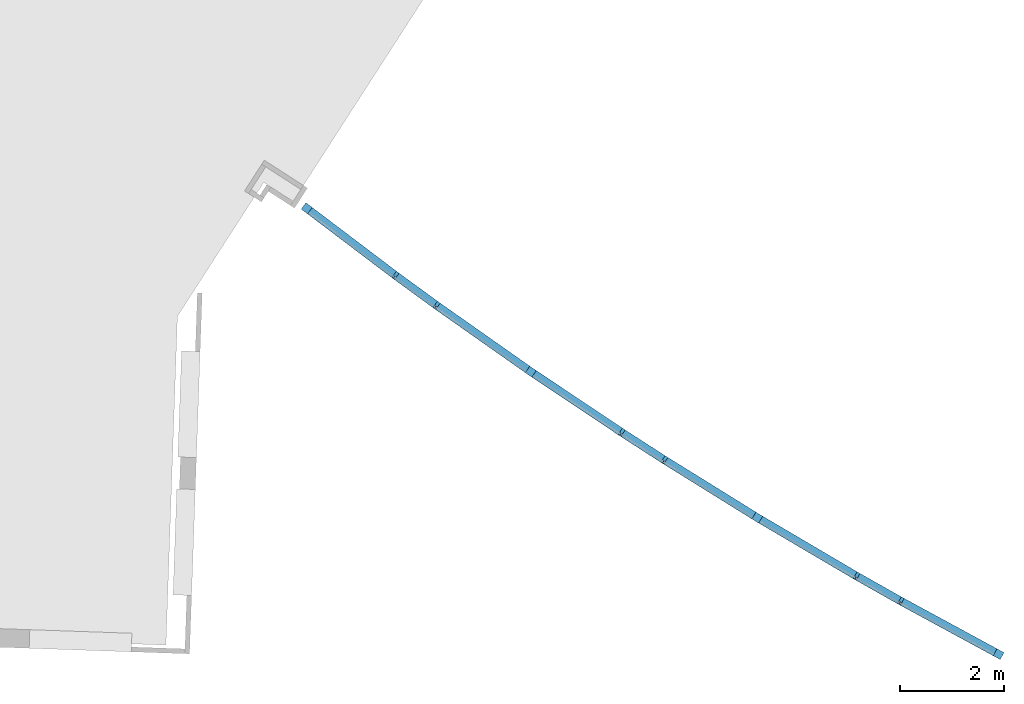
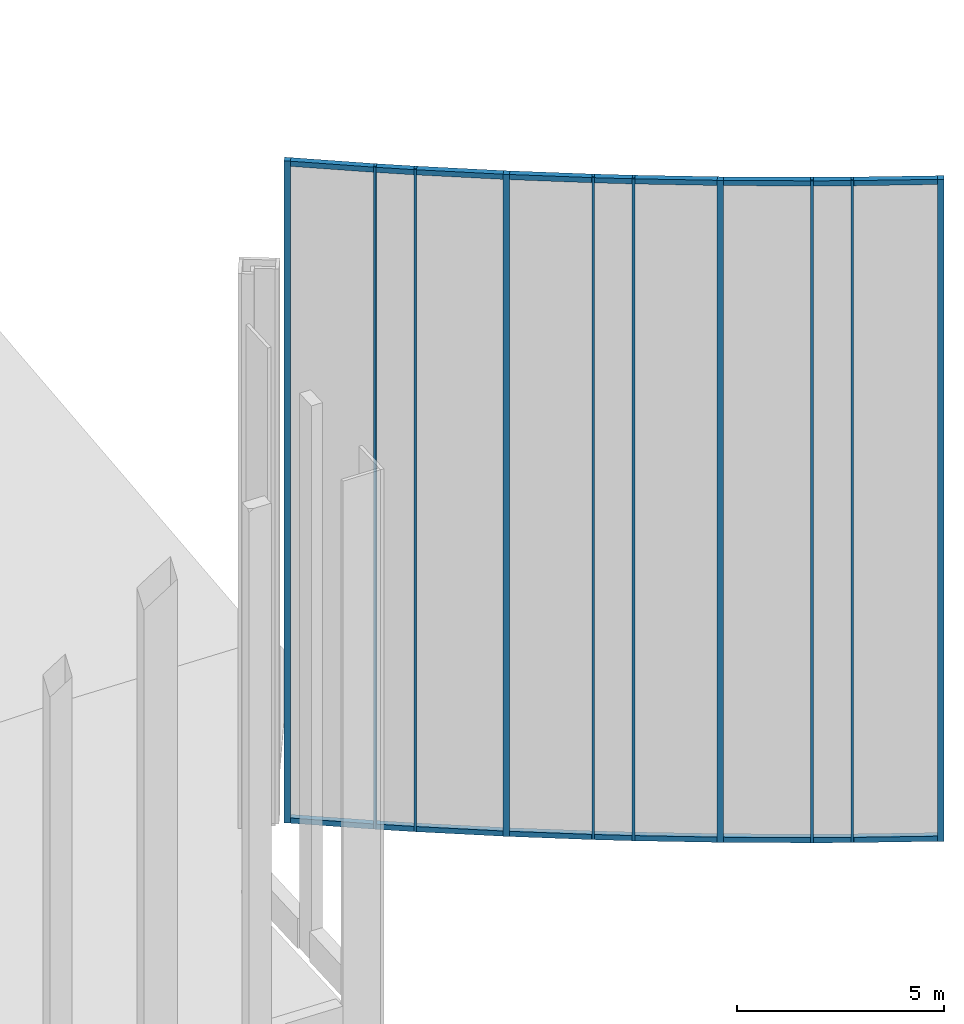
# One storey, part 1 of 17: 28 members, 1 element without a shape of its own.
"""IFC2X3 building model written with IfcOpenShell, lengths in feet."""

import ifcopenshell
import ifcopenshell.guid

model = None  # the IFC model being written
_history = None  # IfcOwnerHistory: only IFC2X3 demands one
_inside = {}  # id of a spatial element -> (the spatial element, [elements in it])
_under = {}  # id of a project, library or spatial element -> (it, [spatial elements below it])
_declared = {}  # id of a project -> (the project, [libraries it declares])
_typed = {}  # id of a type object -> (the type object, [elements of that type])
_made_of = {}  # id of a material, layer set ... -> (it, [elements and type objects made of it])


def new_model(schema):
    """Start an empty IFC model of exactly this schema.

    Asked for "IFC4X3", IfcOpenShell would pick the latest addendum, in which some entities
    have other attributes; the version numbers below select the first issue.
    IFC2X3 requires an IfcOwnerHistory on every rooted entity: one is made here for all.
    """
    global model, _history
    if schema == "IFC4X3":
        model = ifcopenshell.file(schema_version=(4, 3, 0, 0))
    else:
        model = ifcopenshell.file(schema=schema)
    _inside.clear()
    _under.clear()
    _declared.clear()
    _typed.clear()
    _made_of.clear()
    _history = None
    if model.schema == "IFC2X3":
        org = make("IfcOrganization", Name="unknown")
        user = make(
            "IfcPersonAndOrganization",
            ThePerson=make("IfcPerson", FamilyName="unknown"),
            TheOrganization=org,
        )
        app = make(
            "IfcApplication",
            ApplicationDeveloper=org,
            Version="unknown",
            ApplicationFullName="unknown",
            ApplicationIdentifier="unknown",
        )
        _history = make(
            "IfcOwnerHistory",
            OwningUser=user,
            OwningApplication=app,
            ChangeAction="ADDED",
            CreationDate=0,
        )
    return model


def make(cls, **values):
    """One entity of the class cls with the attributes given. An attribute that is None is left unset."""
    return model.create_entity(
        cls, **{name: value for name, value in values.items() if value is not None}
    )


def entity(cls, *values):
    """Any entity or typed value of the class cls, its attributes in the order of the schema. None: left unset."""
    e = model.create_entity(cls)
    for i, value in enumerate(values):
        if value is not None:
            e[i] = value
    return e


def rooted(cls, **values):
    """An entity with a GlobalId (a new one), such as an element, a storey or a relation."""
    return make(cls, GlobalId=ifcopenshell.guid.new(), OwnerHistory=_history, **values)


def si_unit(unit_type, name, prefix=None):
    """IfcSIUnit, for example si_unit("LENGTHUNIT", "METRE", prefix="MILLI")."""
    return make("IfcSIUnit", UnitType=unit_type, Prefix=prefix, Name=name)


def converted_unit(unit_type, name, factor, base, dimensions=None, offset=None):
    """IfcConversionBasedUnit, such as the inch: factor (a typed value) times the base unit."""
    return make(
        "IfcConversionBasedUnit"
        if offset is None
        else "IfcConversionBasedUnitWithOffset",
        ConversionOffset=offset,
        Dimensions=None
        if dimensions is None
        else entity("IfcDimensionalExponents", *dimensions),
        UnitType=unit_type,
        Name=name,
        ConversionFactor=make(
            "IfcMeasureWithUnit", ValueComponent=factor, UnitComponent=base
        ),
    )


def derived_unit(unit_type, elements):
    """IfcDerivedUnit: a product of units, each with its exponent."""
    return make(
        "IfcDerivedUnit",
        Elements=[
            make("IfcDerivedUnitElement", Unit=unit, Exponent=power)
            for unit, power in elements
        ],
        UnitType=unit_type,
    )


def assignment(units):
    """IfcUnitAssignment: the units of a project."""
    return None if units is None else make("IfcUnitAssignment", Units=units)


def point(xyz):
    """IfcCartesianPoint."""
    return None if xyz is None else make("IfcCartesianPoint", Coordinates=xyz)


def direction(xyz):
    """IfcDirection."""
    return None if xyz is None else make("IfcDirection", DirectionRatios=xyz)


def frame(location, z_axis=None, x_axis=None):
    """IfcAxis2Placement3D, a coordinate frame: its origin and axes. An axis left out is left unset."""
    return make(
        "IfcAxis2Placement3D",
        Location=point(location),
        Axis=direction(z_axis),
        RefDirection=direction(x_axis),
    )


def frame_2d(location, x_axis=None):
    """IfcAxis2Placement2D, a coordinate frame in the plane: its origin and x axis."""
    return make(
        "IfcAxis2Placement2D", Location=point(location), RefDirection=direction(x_axis)
    )


def origin():
    """The frame at (0, 0, 0) with its axes left unset."""
    return frame((0.0, 0.0, 0.0))


def origin_2d_with_axis():
    """The frame at (0, 0) in the plane with the x axis (1, 0) written out."""
    return frame_2d((0.0, 0.0), x_axis=(1.0, 0.0))


def place(relative_to, where):
    """IfcLocalPlacement: puts the frame where relative to a parent placement (None: the world)."""
    return make(
        "IfcLocalPlacement", PlacementRelTo=relative_to, RelativePlacement=where
    )


def context(
    kind, dimensions, precision=None, world=None, true_north=None, identifier=None
):
    """IfcGeometricRepresentationContext, for example the 3D "Model" context."""
    return make(
        "IfcGeometricRepresentationContext",
        ContextIdentifier=identifier,
        ContextType=kind,
        CoordinateSpaceDimension=dimensions,
        Precision=precision,
        WorldCoordinateSystem=world,
        TrueNorth=true_north,
    )


def subcontext(parent, identifier, kind, view, scale=None):
    """IfcGeometricRepresentationSubContext, for example "Body" below "Model"."""
    return make(
        "IfcGeometricRepresentationSubContext",
        ContextIdentifier=identifier,
        ContextType=kind,
        ParentContext=parent,
        TargetScale=scale,
        TargetView=view,
    )


def project(units=None, contexts=None):
    """IfcProject with its units and contexts."""
    return rooted(
        "IfcProject",
        Name="project",
        RepresentationContexts=contexts,
        UnitsInContext=assignment(units),
    )


def spatial(cls, under=None, at=None, **own):
    """A site, building, storey or space (cls), placed at a placement, below another one or the project."""
    s = rooted(cls, ObjectPlacement=at, **own)
    if under is not None:
        _under.setdefault(under.id(), (under, []))[1].append(s)
    return s


def polyline(points):
    """IfcPolyline through the points."""
    return make("IfcPolyline", Points=[point(p) for p in points])


def profile(cls, at=None, kind="AREA", **sizes):
    """A parametric profile (cls). Its sizes go by their IFC names, for example OverallWidth=200.0."""
    return make(cls, ProfileType=kind, Position=at, **sizes)


def rectangle(**sizes):
    """IfcRectangleProfileDef."""
    return profile("IfcRectangleProfileDef", **sizes)


def outline(outer, holes=None, kind="AREA"):
    """IfcArbitraryClosedProfileDef: a profile drawn as a closed curve; with holes, ...WithVoids."""
    if holes is None:
        return make("IfcArbitraryClosedProfileDef", ProfileType=kind, OuterCurve=outer)
    return make(
        "IfcArbitraryProfileDefWithVoids",
        ProfileType=kind,
        OuterCurve=outer,
        InnerCurves=holes,
    )


def extrude(swept, where, along, depth):
    """IfcExtrudedAreaSolid: the profile swept, set in the frame where, extruded along a direction by depth."""
    return make(
        "IfcExtrudedAreaSolid",
        SweptArea=swept,
        Position=where,
        ExtrudedDirection=direction(along),
        Depth=depth,
    )


def shape(context_of_items, identifier, shape_type, items):
    """IfcShapeRepresentation: the items that make up one representation, for example the "Body"."""
    return make(
        "IfcShapeRepresentation",
        ContextOfItems=context_of_items,
        RepresentationIdentifier=identifier,
        RepresentationType=shape_type,
        Items=items,
    )


def material(Name=None, Category=None):
    """IfcMaterial."""
    return make("IfcMaterial", Name=Name, Category=Category)


def made_of(thing, what):
    """Note that an element or type object is made of a material, layer set ...; save() writes the relation."""
    if what is not None:
        _made_of.setdefault(what.id(), (what, []))[1].append(thing)
    return thing


def type_object(cls, material=None, **own):
    """A type object (cls), such as IfcWallType, which elements share."""
    return made_of(rooted(cls, **own), material)


def element(
    cls,
    number,
    at=None,
    inside=None,
    cuts=None,
    type_object=None,
    material=None,
    context=None,
    identifier="Body",
    shape_type=None,
    held_by="IfcProductDefinitionShape",
    body=None,
    shapes=None,
    **own,
):
    """One element of the class cls, such as IfcWall. Its Tag is "e" and its number.

    at: its placement. inside: the storey or other place that contains it. cuts: it is an
    opening in that element (IfcRelVoidsElement). A single representation is given by context,
    identifier, shape_type and body (its items); several are given by shapes. held_by: the class
    of the entity that holds the representations. save() writes the other relations.
    """
    e = rooted(cls, Tag="e%d" % number, ObjectPlacement=at, **own)
    if body is not None:
        shapes = [shape(context, identifier, shape_type, body)]
    if shapes is not None:
        e.Representation = make(held_by, Representations=shapes)
    if inside is not None:
        _inside.setdefault(inside.id(), (inside, []))[1].append(e)
    if cuts is not None:
        rooted(
            "IfcRelVoidsElement", RelatingBuildingElement=cuts, RelatedOpeningElement=e
        )
    if type_object is not None:
        _typed.setdefault(type_object.id(), (type_object, []))[1].append(e)
    return made_of(e, material)


def aggregate(whole, parts):
    """IfcRelAggregates: a whole, such as a stair, and the parts it consists of."""
    return rooted("IfcRelAggregates", RelatingObject=whole, RelatedObjects=parts)


def save(model, path):
    """Write the relations noted so far, then the file.

    IfcRelAggregates (storeys below a building ...), IfcRelContainedInSpatialStructure (elements
    in a storey), IfcRelDefinesByType, IfcRelAssociatesMaterial and IfcRelDeclares: one each for
    every whole, place, type object, material and project.
    """
    for whole, parts in _under.values():
        aggregate(whole, parts)
    for where, things in _inside.values():
        rooted(
            "IfcRelContainedInSpatialStructure",
            RelatedElements=things,
            RelatingStructure=where,
        )
    for kind, things in _typed.values():
        rooted("IfcRelDefinesByType", RelatedObjects=things, RelatingType=kind)
    for what, things in _made_of.values():
        rooted("IfcRelAssociatesMaterial", RelatedObjects=things, RelatingMaterial=what)
    for by, libraries in _declared.values():
        rooted("IfcRelDeclares", RelatingContext=by, RelatedDefinitions=libraries)
    model.write(path)


model = new_model("IFC2X3")

# Units and contexts
model_context = context("Model", 3, precision=0.0001, world=origin(), true_north=direction((0.999390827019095, 0.0348994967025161)))
body_context = subcontext(model_context, "Body", "Model", "MODEL_VIEW")
ifc_project = project(units=[converted_unit("LENGTHUNIT", "FOOT", entity("IfcRatioMeasure", 0.3048), si_unit("LENGTHUNIT", "METRE"), dimensions=[1, 0, 0, 0, 0, 0, 0]), converted_unit("AREAUNIT", "SQUARE FOOT", entity("IfcRatioMeasure", 0.09290304), si_unit("AREAUNIT", "SQUARE_METRE"), dimensions=[2, 0, 0, 0, 0, 0, 0]), converted_unit("VOLUMEUNIT", "CUBIC FOOT", entity("IfcRatioMeasure", 0.028316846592), si_unit("VOLUMEUNIT", "CUBIC_METRE"), dimensions=[3, 0, 0, 0, 0, 0, 0]), converted_unit("PLANEANGLEUNIT", "DEGREE", entity("IfcRatioMeasure", 0.0174532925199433), si_unit("PLANEANGLEUNIT", "RADIAN"), dimensions=[0, 0, 0, 0, 0, 0, 0]), si_unit("MASSUNIT", "GRAM", prefix="KILO"), si_unit("TIMEUNIT", "SECOND"), si_unit("FREQUENCYUNIT", "HERTZ"), si_unit("THERMODYNAMICTEMPERATUREUNIT", "DEGREE_CELSIUS"), derived_unit("THERMALTRANSMITTANCEUNIT", [(si_unit("MASSUNIT", "GRAM", prefix="KILO"), 1), (si_unit("THERMODYNAMICTEMPERATUREUNIT", "KELVIN"), -1), (si_unit("TIMEUNIT", "SECOND"), -3)]), derived_unit("VOLUMETRICFLOWRATEUNIT", [(si_unit("LENGTHUNIT", "METRE"), 3), (si_unit("TIMEUNIT", "SECOND"), -1)]), si_unit("ELECTRICCURRENTUNIT", "AMPERE"), si_unit("ELECTRICVOLTAGEUNIT", "VOLT"), si_unit("POWERUNIT", "WATT"), si_unit("FORCEUNIT", "NEWTON"), si_unit("ILLUMINANCEUNIT", "LUX"), si_unit("LUMINOUSFLUXUNIT", "LUMEN"), si_unit("LUMINOUSINTENSITYUNIT", "CANDELA"), derived_unit("USERDEFINED", [(si_unit("MASSUNIT", "GRAM", prefix="KILO"), -1), (si_unit("LENGTHUNIT", "METRE"), -2), (si_unit("TIMEUNIT", "SECOND"), 3), (si_unit("LUMINOUSFLUXUNIT", "LUMEN"), 1)]), derived_unit("LINEARVELOCITYUNIT", [(si_unit("LENGTHUNIT", "METRE"), 1), (si_unit("TIMEUNIT", "SECOND"), -1)]), si_unit("PRESSUREUNIT", "PASCAL"), derived_unit("USERDEFINED", [(si_unit("LENGTHUNIT", "METRE"), -2), (si_unit("MASSUNIT", "GRAM", prefix="KILO"), 1), (si_unit("TIMEUNIT", "SECOND"), -2)])], contexts=[model_context])

# Site, building, storey
site_placement = place(None, frame((892.518771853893, 322.38689265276, 0.00393700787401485), z_axis=(0.0, 0.0, 1.0), x_axis=(0.0348994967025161, 0.999390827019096, 0.0)))
site = spatial("IfcSite", under=ifc_project, at=site_placement, Name="Default", CompositionType="ELEMENT")
building_placement = place(site_placement, origin())
building = spatial("IfcBuilding", under=site, at=building_placement, CompositionType="ELEMENT")
storey_placement = place(building_placement, frame((0.0, 0.0, 557.0)))
storey = spatial("IfcBuildingStorey", under=building, at=storey_placement, Name="Existing Garage - 1st Level", CompositionType="ELEMENT", Elevation=557.0)

# Curtain wall, members
curtain_wall_type = type_object("IfcCurtainWallType", Name="Curtain Wall:(Existing) Curtainwall - Blank", PredefinedType="NOTDEFINED")
curtain_wall_placement = place(storey_placement, frame((0.0, 0.0, -557.0)))
curtain_wall = element("IfcCurtainWall", 1, at=curtain_wall_placement, inside=storey, type_object=curtain_wall_type, Name="Curtain Wall:(Existing) Curtainwall - Blank", ObjectType="Curtain Wall:(Existing) Curtainwall - Blank")
ifc_material = material(Name="Metal - Aluminum")
member_1_placement = place(curtain_wall_placement, frame((0.0, 0.0, 557.0)))
member_1 = element("IfcMember", 2, at=member_1_placement, material=ifc_material, Name="Curtain Wall:(Existing) Curtainwall - Blank", ObjectType="Curtain Wall:(Existing) Curtainwall - Blank", context=body_context, shape_type="SweptSolid", body=[
    extrude(rectangle(XDim=0.500000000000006, YDim=0.499999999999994, at=frame_2d((-6.32827124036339e-15, 1.2712053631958e-14), x_axis=(1.0, 0.0))), frame((-189.485491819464, 202.474083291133, 0.0), z_axis=(0.0, 0.0, 1.0), x_axis=(0.895013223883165, -0.446039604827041, 0.0)), (0.0, 0.0, 1.0), 63.8958333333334),
])
member_2_placement = place(curtain_wall_placement, frame((0.0, 0.0, 557.0)))
member_2 = element("IfcMember", 3, at=member_2_placement, material=ifc_material, Name="Curtain Wall:(Existing) Curtainwall - Blank", ObjectType="Curtain Wall:(Existing) Curtainwall - Blank", context=body_context, shape_type="SweptSolid", body=[
    extrude(rectangle(XDim=0.500000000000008, YDim=0.500000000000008, at=frame_2d((-3.44169137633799e-15, 1.98036032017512e-14), x_axis=(1.0, 0.0))), frame((-163.011267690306, 246.887474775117, 63.8958333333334), z_axis=(0.0, 0.0, -1.0), x_axis=(0.575109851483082, 0.818076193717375, 0.0)), (0.0, 0.0, 1.0), 63.8958333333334),
])
member_3_placement = place(curtain_wall_placement, frame((0.0, 0.0, 557.0)))
member_3 = element("IfcMember", 4, at=member_3_placement, material=ifc_material, Name="Curtain Wall:(Existing) Curtainwall - Blank", ObjectType="Curtain Wall:(Existing) Curtainwall - Blank", context=body_context, shape_type="SweptSolid", body=[
    extrude(rectangle(XDim=0.5, YDim=0.500000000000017, at=frame_2d((0.0, 1.91652249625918e-14), x_axis=(1.0, 0.0))), frame((-186.320935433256, 208.819986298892, 63.6458333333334), z_axis=(0.46156416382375, 0.887106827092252, 0.0), x_axis=(0.0, 0.0, -1.0)), (0.0, 0.0, 1.0), 2.98902898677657),
])
member_4_placement = place(curtain_wall_placement, frame((0.0, 0.0, 557.0)))
member_4 = element("IfcMember", 5, at=member_4_placement, material=ifc_material, Name="Curtain Wall:(Existing) Curtainwall - Blank", ObjectType="Curtain Wall:(Existing) Curtainwall - Blank", context=body_context, shape_type="SweptSolid", body=[
    extrude(rectangle(XDim=0.5, YDim=0.49999999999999, at=origin_2d_with_axis()), frame((-184.844566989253, 211.653613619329, 63.6458333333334), z_axis=(0.476948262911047, 0.878931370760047, 0.0), x_axis=(0.0, 0.0, -1.0)), (0.0, 0.0, 1.0), 6.8847962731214),
])
member_5_placement = place(curtain_wall_placement, frame((0.0, 0.0, 557.0)))
member_5 = element("IfcMember", 6, at=member_5_placement, material=ifc_material, Name="Curtain Wall:(Existing) Curtainwall - Blank", ObjectType="Curtain Wall:(Existing) Curtainwall - Blank", context=body_context, shape_type="SweptSolid", body=[
    extrude(rectangle(XDim=0.5, YDim=0.499999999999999, at=frame_2d((0.0, 7.06379399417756e-15), x_axis=(1.0, 0.0))), frame((-181.318694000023, 218.138902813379, 63.6458333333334), z_axis=(0.497515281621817, 0.867455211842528, 0.0), x_axis=(0.0, 0.0, -1.0)), (0.0, 0.0, 1.0), 6.51584331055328),
])
member_6_placement = place(curtain_wall_placement, frame((0.0, 0.0, 557.0)))
member_6 = element("IfcMember", 7, at=member_6_placement, material=ifc_material, Name="Curtain Wall:(Existing) Curtainwall - Blank", ObjectType="Curtain Wall:(Existing) Curtainwall - Blank", context=body_context, shape_type="SweptSolid", body=[
    extrude(rectangle(XDim=0.5, YDim=0.49999999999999, at=frame_2d((0.0, -1.96509475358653e-14), x_axis=(1.0, 0.0))), frame((-172.638845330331, 232.672518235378, 63.6458333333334), z_axis=(0.546262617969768, 0.837613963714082, 0.0), x_axis=(0.0, 0.0, -1.0)), (0.0, 0.0, 1.0), 6.88424032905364),
])
member_7_placement = place(curtain_wall_placement, frame((0.0, 0.0, 557.0)))
member_7 = element("IfcMember", 8, at=member_7_placement, material=ifc_material, Name="Curtain Wall:(Existing) Curtainwall - Blank", ObjectType="Curtain Wall:(Existing) Curtainwall - Blank", context=body_context, shape_type="SweptSolid", body=[
    extrude(rectangle(XDim=0.5, YDim=0.500000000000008, at=origin_2d_with_axis()), frame((-166.970942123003, 241.254958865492, 63.6458333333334), z_axis=(0.575109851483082, 0.818076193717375, 0.0), x_axis=(0.0, 0.0, -1.0)), (0.0, 0.0, 1.0), 6.6350749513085),
])
member_8_placement = place(curtain_wall_placement, frame((0.0, 0.0, 557.0)))
member_8 = element("IfcMember", 9, at=member_8_placement, material=ifc_material, Name="Curtain Wall:(Existing) Curtainwall - Blank", ObjectType="Curtain Wall:(Existing) Curtainwall - Blank", context=body_context, shape_type="SweptSolid", body=[
    extrude(rectangle(XDim=0.5, YDim=0.49999999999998, at=frame_2d((0.0, 1.97203364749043e-14), x_axis=(1.0, 0.0))), frame((-168.764131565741, 238.610538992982, 63.6458333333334), z_axis=(0.560770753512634, 0.827971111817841, 0.0), x_axis=(0.0, 0.0, -1.0)), (0.0, 0.0, 1.0), 2.98893157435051),
])
member_9_placement = place(curtain_wall_placement, frame((0.0, 0.0, 557.0)))
member_9 = element("IfcMember", 10, at=member_9_placement, material=ifc_material, Name="Curtain Wall:(Existing) Curtainwall - Blank", ObjectType="Curtain Wall:(Existing) Curtainwall - Blank", context=body_context, shape_type="SweptSolid", body=[
    extrude(rectangle(XDim=0.5, YDim=0.500000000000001, at=frame_2d((0.0, 1.20736753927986e-14), x_axis=(1.0, 0.0))), frame((-176.335325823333, 226.712884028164, 63.6458333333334), z_axis=(0.526385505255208, 0.850246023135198, 0.0), x_axis=(0.0, 0.0, -1.0)), (0.0, 0.0, 1.0), 6.51594209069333),
])
member_10_placement = place(curtain_wall_placement, frame((0.0, 0.0, 557.0)))
member_10 = element("IfcMember", 11, at=member_10_placement, material=ifc_material, Name="Curtain Wall:(Existing) Curtainwall - Blank", ObjectType="Curtain Wall:(Existing) Curtainwall - Blank", context=body_context, shape_type="SweptSolid", body=[
    extrude(rectangle(XDim=0.5, YDim=0.500000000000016, at=frame_2d((0.0, 2.43971509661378e-14), x_axis=(1.0, 0.0))), frame((-177.972862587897, 223.969127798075, 63.6458333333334), z_axis=(0.512022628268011, 0.858971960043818, 0.0), x_axis=(0.0, 0.0, -1.0)), (0.0, 0.0, 1.0), 2.98904756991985),
])
member_11_placement = place(curtain_wall_placement, frame((0.0, 0.0, 557.0)))
member_11 = element("IfcMember", 12, at=member_11_placement, material=ifc_material, Name="Curtain Wall:(Existing) Curtainwall - Blank", ObjectType="Curtain Wall:(Existing) Curtainwall - Blank", context=body_context, shape_type="SweptSolid", body=[
    extrude(rectangle(XDim=0.5, YDim=0.500000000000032, at=origin_2d_with_axis()), frame((-189.373981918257, 202.697836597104, 63.6458333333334), z_axis=(0.446039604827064, 0.895013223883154, 0.0), x_axis=(0.0, 0.0, -1.0)), (0.0, 0.0, 1.0), 6.6350447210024),
])
member_12_placement = place(curtain_wall_placement, frame((0.0, 0.0, 557.0)))
member_12 = element("IfcMember", 13, at=member_12_placement, material=ifc_material, Name="Curtain Wall:(Existing) Curtainwall - Blank", ObjectType="Curtain Wall:(Existing) Curtainwall - Blank", context=body_context, shape_type="SweptSolid", body=[
    extrude(rectangle(XDim=0.5, YDim=0.49999999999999, at=origin_2d_with_axis()), frame((-181.560875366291, 217.704877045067, 0.25), z_axis=(-0.476948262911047, -0.878931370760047, 0.0), x_axis=(0.0, 0.0, -1.0)), (0.0, 0.0, 1.0), 6.88479627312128),
])
member_13_placement = place(curtain_wall_placement, frame((0.0, 0.0, 557.0)))
member_13 = element("IfcMember", 14, at=member_13_placement, material=ifc_material, Name="Curtain Wall:(Existing) Curtainwall - Blank", ObjectType="Curtain Wall:(Existing) Curtainwall - Blank", context=body_context, shape_type="SweptSolid", body=[
    extrude(rectangle(XDim=0.5, YDim=0.500000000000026, at=origin_2d_with_axis()), frame((-172.90542835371, 232.253037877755, 0.25), z_axis=(-0.526385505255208, -0.850246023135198, 0.0), x_axis=(0.0, 0.0, -1.0)), (0.0, 0.0, 1.0), 6.51594209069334),
])
member_14_placement = place(curtain_wall_placement, frame((0.0, 0.0, 557.0)))
member_14 = element("IfcMember", 15, at=member_14_placement, material=ifc_material, Name="Curtain Wall:(Existing) Curtainwall - Blank", ObjectType="Curtain Wall:(Existing) Curtainwall - Blank", context=body_context, shape_type="SweptSolid", body=[
    extrude(rectangle(XDim=0.5, YDim=0.49999999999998, at=frame_2d((0.0, -1.974809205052e-14), x_axis=(1.0, 0.0))), frame((-167.088026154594, 241.085287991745, 0.25), z_axis=(-0.560770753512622, -0.82797111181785, 0.0), x_axis=(0.0, 0.0, -1.0)), (0.0, 0.0, 1.0), 2.98893157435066),
])
member_15_placement = place(curtain_wall_placement, frame((0.0, 0.0, 557.0)))
member_15 = element("IfcMember", 16, at=member_15_placement, material=ifc_material, Name="Curtain Wall:(Existing) Curtainwall - Blank", ObjectType="Curtain Wall:(Existing) Curtainwall - Blank", context=body_context, shape_type="SweptSolid", body=[
    extrude(rectangle(XDim=0.5, YDim=0.500000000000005, at=frame_2d((0.0, 1.1893264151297e-14), x_axis=(1.0, 0.0))), frame((-168.87824218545, 238.438854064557, 0.25), z_axis=(-0.546262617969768, -0.837613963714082, 0.0), x_axis=(0.0, 0.0, -1.0)), (0.0, 0.0, 1.0), 6.8842403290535),
])
member_16_placement = place(curtain_wall_placement, frame((0.0, 0.0, 557.0)))
member_16 = element("IfcMember", 17, at=member_16_placement, material=ifc_material, Name="Curtain Wall:(Existing) Curtainwall - Blank", ObjectType="Curtain Wall:(Existing) Curtainwall - Blank", context=body_context, shape_type="SweptSolid", body=[
    extrude(rectangle(XDim=0.5, YDim=0.500000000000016, at=origin_2d_with_axis()), frame((-176.442402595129, 226.536635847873, 0.25), z_axis=(-0.512022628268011, -0.858971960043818, 0.0), x_axis=(0.0, 0.0, -1.0)), (0.0, 0.0, 1.0), 2.98904756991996),
])
member_17_placement = place(curtain_wall_placement, frame((0.0, 0.0, 557.0)))
member_17 = element("IfcMember", 18, at=member_17_placement, material=ifc_material, Name="Curtain Wall:(Existing) Curtainwall - Blank", ObjectType="Curtain Wall:(Existing) Curtainwall - Blank", context=body_context, shape_type="SweptSolid", body=[
    extrude(rectangle(XDim=0.5, YDim=0.499999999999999, at=frame_2d((0.0, 3.17385007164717e-14), x_axis=(1.0, 0.0))), frame((-178.076962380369, 223.791105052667, 0.25), z_axis=(-0.497515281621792, -0.867455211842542, 0.0), x_axis=(0.0, 0.0, -1.0)), (0.0, 0.0, 1.0), 6.51584331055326),
])
member_18_placement = place(curtain_wall_placement, frame((0.0, 0.0, 557.0)))
member_18 = element("IfcMember", 19, at=member_18_placement, material=ifc_material, Name="Curtain Wall:(Existing) Curtainwall - Blank", ObjectType="Curtain Wall:(Existing) Curtainwall - Blank", context=body_context, shape_type="SweptSolid", body=[
    extrude(rectangle(XDim=0.5, YDim=0.500000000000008, at=frame_2d((0.0, 8.17401701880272e-15), x_axis=(1.0, 0.0))), frame((-163.155045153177, 246.682955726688, 0.25), z_axis=(-0.575109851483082, -0.818076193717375, 0.0), x_axis=(0.0, 0.0, -1.0)), (0.0, 0.0, 1.0), 6.6350749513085),
])
member_19_placement = place(curtain_wall_placement, frame((0.0, 0.0, 557.0)))
member_19 = element("IfcMember", 20, at=member_19_placement, material=ifc_material, Name="Curtain Wall:(Existing) Curtainwall - Blank", ObjectType="Curtain Wall:(Existing) Curtainwall - Blank", context=body_context, shape_type="SweptSolid", body=[
    extrude(rectangle(XDim=0.5, YDim=0.499999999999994, at=frame_2d((0.0, -1.90680804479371e-14), x_axis=(1.0, 0.0))), frame((-186.414489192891, 208.636289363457, 0.25), z_axis=(-0.446039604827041, -0.895013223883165, 0.0), x_axis=(0.0, 0.0, -1.0)), (0.0, 0.0, 1.0), 6.63504472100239),
])
member_20_placement = place(curtain_wall_placement, frame((0.0, 0.0, 557.0)))
member_20 = element("IfcMember", 21, at=member_20_placement, material=ifc_material, Name="Curtain Wall:(Existing) Curtainwall - Blank", ObjectType="Curtain Wall:(Existing) Curtainwall - Blank", context=body_context, shape_type="SweptSolid", body=[
    extrude(rectangle(XDim=0.5, YDim=0.500000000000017, at=frame_2d((0.0, 1.91652249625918e-14), x_axis=(1.0, 0.0))), frame((-184.941306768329, 211.471574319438, 0.25), z_axis=(-0.46156416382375, -0.887106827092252, 0.0), x_axis=(0.0, 0.0, -1.0)), (0.0, 0.0, 1.0), 2.9890289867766),
])
member_21_placement = place(curtain_wall_placement, frame((0.0, 0.0, 557.0)))
member_21 = element("IfcMember", 22, at=member_21_placement, material=ifc_material, Name="Curtain Wall:(Existing) Curtainwall - Blank", ObjectType="Curtain Wall:(Existing) Curtainwall - Blank", context=body_context, shape_type="SweptSolid", body=[
    extrude(rectangle(XDim=0.499999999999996, YDim=0.499999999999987, at=frame_2d((1.9595436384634e-14, -4.38538094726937e-15), x_axis=(1.0, 0.0))), frame((-172.774593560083, 232.464384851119, 0.0), z_axis=(0.0, 0.0, 1.0), x_axis=(0.844153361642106, -0.536101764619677, 0.0)), (0.0, 0.0, 1.0), 63.8958333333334),
])
member_22_placement = place(curtain_wall_placement, frame((0.0, 0.0, 557.0)))
member_22 = element("IfcMember", 23, at=member_22_placement, material=ifc_material, Name="Curtain Wall:(Existing) Curtainwall - Blank", ObjectType="Curtain Wall:(Existing) Curtainwall - Blank", context=body_context, shape_type="SweptSolid", body=[
    extrude(rectangle(XDim=0.500000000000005, YDim=0.499999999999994, at=frame_2d((-6.89448498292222e-14, -2.22322160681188e-14), x_axis=(1.0, 0.0))), frame((-181.44236675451, 217.92328661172, 0.0), z_axis=(0.0, 0.0, 1.0), x_axis=(0.873103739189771, -0.487534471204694, 0.0)), (0.0, 0.0, 1.0), 63.8958333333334),
])
member_23_placement = place(curtain_wall_placement, frame((0.0, 0.0, 557.0)))
member_23 = element("IfcMember", 24, at=member_23_placement, material=ifc_material, Name="Curtain Wall:(Existing) Curtainwall - Blank", ObjectType="Curtain Wall:(Existing) Curtainwall - Blank", context=body_context, shape_type="SweptSolid", body=[
    extrude(outline(polyline([(-0.104166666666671, -0.333333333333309), (0.104166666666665, -0.333333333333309), (0.104166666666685, -0.0208333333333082), (0.0260416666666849, -0.0208333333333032), (0.0260416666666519, 0.104166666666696), (0.104166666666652, 0.104166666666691), (0.104166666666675, 0.166666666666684), (-0.104166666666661, 0.166666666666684), (-0.104166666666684, 0.104166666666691), (-0.026041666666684, 0.104166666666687), (-0.0260416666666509, -0.0208333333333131), (-0.104166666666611, -0.0208333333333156), (-0.104166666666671, -0.333333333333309)])), frame((-167.098735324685, 241.218082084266, 0.0), z_axis=(0.0, 0.0, 1.0), x_axis=(0.565181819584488, 0.824966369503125, 0.0)), (0.0, 0.0, 1.0), 63.8958333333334),
])
member_24_placement = place(curtain_wall_placement, frame((0.0, 0.0, 557.0)))
member_24 = element("IfcMember", 25, at=member_24_placement, material=ifc_material, Name="Curtain Wall:(Existing) Curtainwall - Blank", ObjectType="Curtain Wall:(Existing) Curtainwall - Blank", context=body_context, shape_type="SweptSolid", body=[
    extrude(outline(polyline([(-0.104166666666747, -0.333333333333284), (0.104166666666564, -0.333333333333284), (0.104166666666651, -0.0208333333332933), (0.0260416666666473, -0.0208333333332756), (0.0260416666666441, 0.104166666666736), (0.104166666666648, 0.104166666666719), (0.104166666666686, 0.166666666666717), (-0.104166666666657, 0.166666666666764), (-0.104166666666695, 0.104166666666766), (-0.0260416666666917, 0.104166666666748), (-0.0260416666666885, -0.0208333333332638), (-0.104166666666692, -0.0208333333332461), (-0.104166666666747, -0.333333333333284)])), frame((-168.891418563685, 238.571207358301, 0.0), z_axis=(0.0, 0.0, 1.0), x_axis=(0.556343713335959, 0.830952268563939, 0.0)), (0.0, 0.0, 1.0), 63.8958333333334),
])
member_25_placement = place(curtain_wall_placement, frame((0.0, 0.0, 557.0)))
member_25 = element("IfcMember", 26, at=member_25_placement, material=ifc_material, Name="Curtain Wall:(Existing) Curtainwall - Blank", ObjectType="Curtain Wall:(Existing) Curtainwall - Blank", context=body_context, shape_type="SweptSolid", body=[
    extrude(outline(polyline([(0.0208333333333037, -0.104166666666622), (0.333333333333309, -0.104166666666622), (0.333333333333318, 0.104166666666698), (0.0208333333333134, 0.104166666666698), (0.0208333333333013, 0.0260416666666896), (-0.104166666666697, 0.0260416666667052), (-0.104166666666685, 0.104166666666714), (-0.166666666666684, 0.104166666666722), (-0.166666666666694, -0.104166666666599), (-0.104166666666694, -0.104166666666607), (-0.104166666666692, -0.0260416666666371), (0.0208333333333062, -0.0260416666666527), (0.0208333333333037, -0.104166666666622)])), frame((-176.460762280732, 226.668589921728, 0.0), z_axis=(0.0, 0.0, 1.0), x_axis=(0.856226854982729, -0.516600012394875, 0.0)), (0.0, 0.0, 1.0), 63.8958333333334),
])
member_26_placement = place(curtain_wall_placement, frame((0.0, 0.0, 557.0)))
member_26 = element("IfcMember", 27, at=member_26_placement, material=ifc_material, Name="Curtain Wall:(Existing) Curtainwall - Blank", ObjectType="Curtain Wall:(Existing) Curtainwall - Blank", context=body_context, shape_type="SweptSolid", body=[
    extrude(outline(polyline([(0.0208333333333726, -0.104166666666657), (0.333333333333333, -0.104166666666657), (0.333333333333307, 0.104166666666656), (0.0208333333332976, 0.104166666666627), (0.0208333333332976, 0.0260416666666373), (-0.104166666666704, 0.0260416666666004), (-0.104166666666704, 0.10416666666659), (-0.16666666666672, 0.104166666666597), (-0.166666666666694, -0.104166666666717), (-0.104166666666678, -0.104166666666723), (-0.104166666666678, -0.026041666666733), (0.0208333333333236, -0.0260416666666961), (0.0208333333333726, -0.104166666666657)])), frame((-178.097665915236, 223.922511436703, 0.0), z_axis=(0.0, 0.0, 1.0), x_axis=(0.861692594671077, -0.507430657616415, 0.0)), (0.0, 0.0, 1.0), 63.8958333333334),
])
member_27_placement = place(curtain_wall_placement, frame((0.0, 0.0, 557.0)))
member_27 = element("IfcMember", 28, at=member_27_placement, material=ifc_material, Name="Curtain Wall:(Existing) Curtainwall - Blank", ObjectType="Curtain Wall:(Existing) Curtainwall - Blank", context=body_context, shape_type="SweptSolid", body=[
    extrude(outline(polyline([(0.0208333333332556, -0.104166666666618), (0.333333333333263, -0.104166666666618), (0.333333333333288, 0.104166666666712), (0.0208333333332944, 0.104166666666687), (0.0208333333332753, 0.026041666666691), (-0.104166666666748, 0.0260416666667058), (-0.104166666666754, 0.104166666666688), (-0.166666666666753, 0.104166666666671), (-0.166666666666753, -0.104166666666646), (-0.104166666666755, -0.104166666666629), (-0.104166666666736, -0.0260416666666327), (0.020833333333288, -0.0260416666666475), (0.0208333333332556, -0.104166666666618)])), frame((-184.967255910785, 211.602247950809, 0.0), z_axis=(0.0, 0.0, 1.0), x_axis=(0.884630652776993, -0.466292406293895, 0.0)), (0.0, 0.0, 1.0), 63.8958333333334),
])
member_28_placement = place(curtain_wall_placement, frame((0.0, 0.0, 557.0)))
member_28 = element("IfcMember", 29, at=member_28_placement, material=ifc_material, Name="Curtain Wall:(Existing) Curtainwall - Blank", ObjectType="Curtain Wall:(Existing) Curtainwall - Blank", context=body_context, shape_type="SweptSolid", body=[
    extrude(outline(polyline([(0.0208333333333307, -0.10416666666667), (0.333333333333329, -0.10416666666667), (0.333333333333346, 0.104166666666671), (0.0208333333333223, 0.104166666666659), (0.020833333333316, 0.0260416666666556), (-0.104166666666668, 0.0260416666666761), (-0.104166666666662, 0.104166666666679), (-0.16666666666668, 0.104166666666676), (-0.166666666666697, -0.104166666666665), (-0.104166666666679, -0.104166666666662), (-0.104166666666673, -0.0260416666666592), (0.0208333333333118, -0.0260416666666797), (0.0208333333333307, -0.10416666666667)])), frame((-186.442838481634, 208.76624057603, 0.0), z_axis=(0.0, 0.0, 1.0), x_axis=(0.889557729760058, -0.456822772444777, 0.0)), (0.0, 0.0, 1.0), 63.8958333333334),
])
aggregate(curtain_wall, [member_1, member_2, member_3, member_4, member_5, member_6, member_7, member_8, member_9, member_10, member_11, member_12, member_13, member_14, member_15, member_16, member_17, member_18, member_19, member_20, member_21, member_22, member_23, member_24, member_25, member_26, member_27, member_28])

save(model, "model.ifc")
